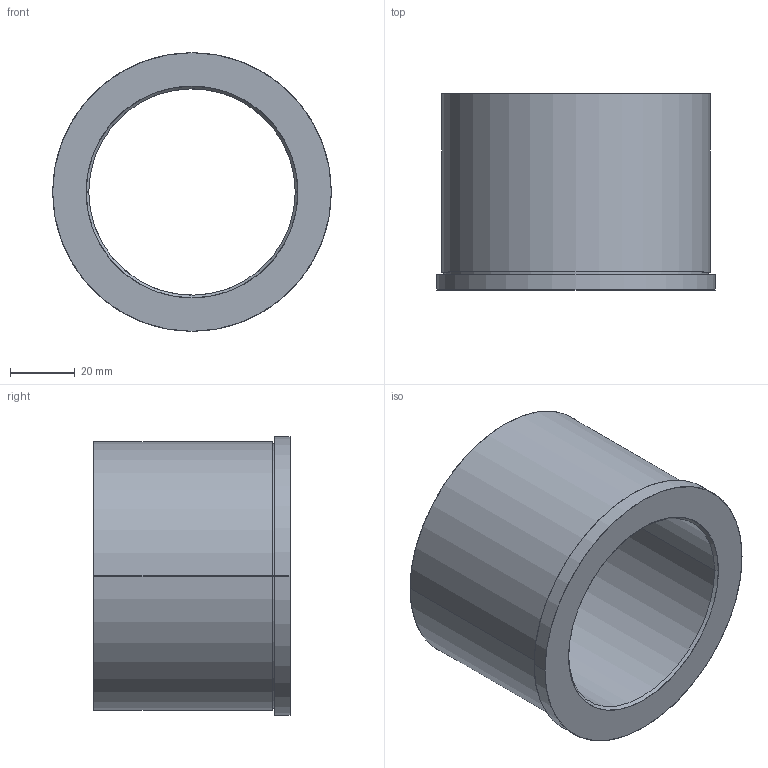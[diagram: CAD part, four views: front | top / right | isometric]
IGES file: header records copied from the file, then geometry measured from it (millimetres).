
Start section: SolidWorks IGES file using analytic representation for surfaces
Global section: file name: C:\Users\Ryan\Documents\PCS\Shoulder Bushings\BU-703.igs; native system: SolidWorks 2009; preprocessor: SolidWorks 2009; author: Ryan; date: 140226.220738; units: inch
Bounding box: 85.72 x 60.33 x 85.72 mm (x, y, z)
Surface area: 32973.6 mm2 (no closed solid volume)
Topology: 0 solids, 0 shells, 16 faces, 560 edges, 560 vertices
Faces by surface type: revolution 10, bspline 6
